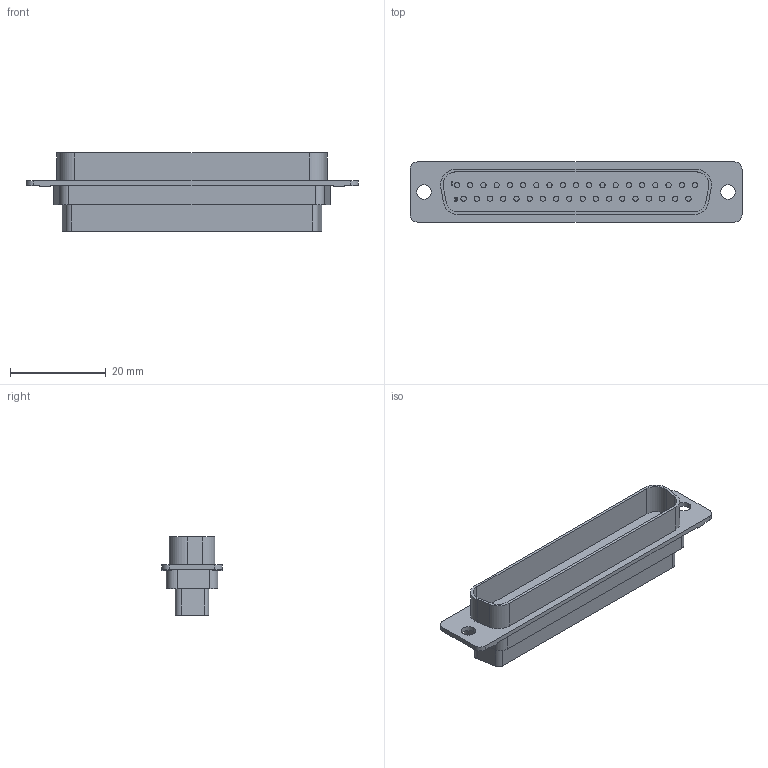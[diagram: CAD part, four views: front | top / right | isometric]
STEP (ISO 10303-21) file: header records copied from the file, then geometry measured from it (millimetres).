
FILE_DESCRIPTION((''),'2;1');
FILE_NAME('C-206802-6','2009-03-16T',('workeradm'),('Tyco Electronics Corporation'),'PRO/ENGINEER BY PARAMETRIC TECHNOLOGY CORPORATION, 2007390','PRO/ENGINEER BY PARAMETRIC TECHNOLOGY CORPORATION, 2007390','');
FILE_SCHEMA(('AUTOMOTIVE_DESIGN { 1 0 10303 214 1 1 1 1 }'));
Length unit declared in the file: millimetre
Products named in the file (1): C-206802-6
Bounding box: 69.32 x 12.55 x 16.36 mm (x, y, z)
Volume: 5303 mm3; surface area: 4977.8 mm2
Topology: 1 solids, 1 shells, 371 faces, 861 edges, 574 vertices
Faces by surface type: plane 199, cylinder 172
Entity records: 10766 total; most frequent: DIRECTION 1947, CARTESIAN_POINT 1807, ORIENTED_EDGE 1722, EDGE_CURVE 861, AXIS2_PLACEMENT_3D 715, VERTEX_POINT 574, VECTOR 517, LINE 517
